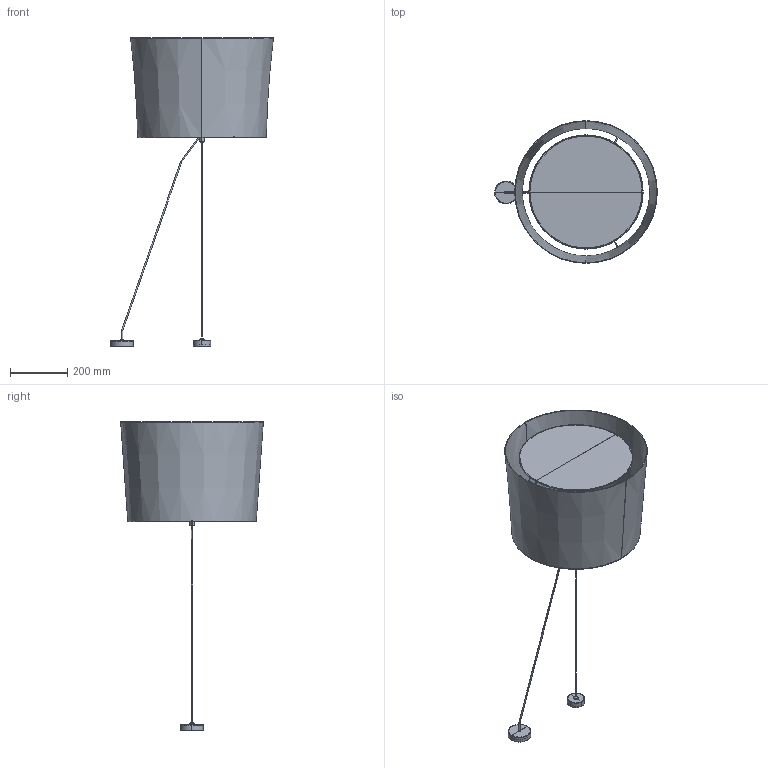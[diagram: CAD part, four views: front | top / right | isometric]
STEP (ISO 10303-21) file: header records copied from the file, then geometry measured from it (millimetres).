
FILE_DESCRIPTION(/* description */ (''),/* implementation_level */ '2;1');
FILE_NAME(/* name */ 'C:\Users\FrancoSartori\Documents\FARO\03_Completados\MAMBO_SAMBA_CONGA\03_Publicación\00_Publicado\64314-54.stp',/* time_stamp */ '2021-04-22T09:10:04+02:00',/* author */ ('FrancoSartori'),/* organization */ (''),/* preprocessor_version */ 'ST-DEVELOPER v18.1',/* originating_system */ 'AutoCAD Mechanical',/* authorisation */ '');
FILE_SCHEMA (('AUTOMOTIVE_DESIGN { 1 0 10303 214 3 1 1 }'));
Length unit declared in the file: millimetre
Products named in the file (3): Product; 64314_STR - STR-686879-Export; CONGA - SH-854174-Export
Assembly tree (2 placements, depth 2):
  Product
    64314_STR - STR-686879-Export
    CONGA - SH-854174-Export
Bounding box: 569.93 x 499.86 x 1081.18 mm (x, y, z)
Volume: 1232845 mm3; surface area: 2467699.3 mm2
Topology: 17 solids, 21 shells, 187 faces, 407 edges, 236 vertices
Faces by surface type: plane 73, cylinder 72, torus 26, cone 12, bspline 4
Entity records: 10304 total; most frequent: CARTESIAN_POINT 6293, DIRECTION 801, ORIENTED_EDGE 798, EDGE_CURVE 407, AXIS2_PLACEMENT_3D 328, VERTEX_POINT 236, FACE_OUTER_BOUND 187, EDGE_LOOP 187
